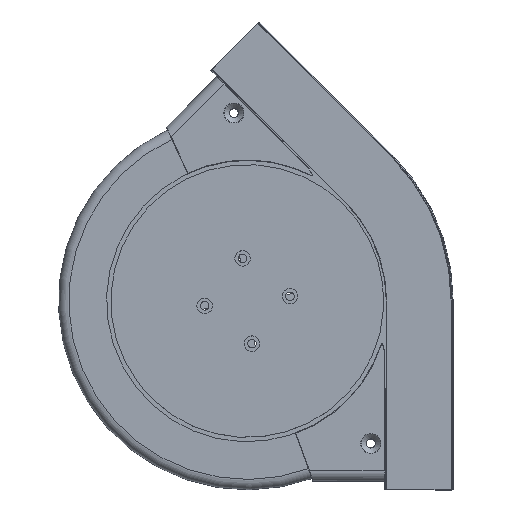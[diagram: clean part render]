
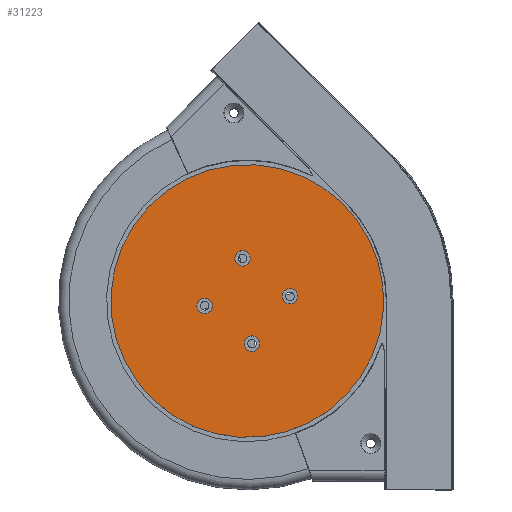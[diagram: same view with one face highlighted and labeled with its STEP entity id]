
A CAD part, top view. The second image highlights one B-rep face of the part: STEP entity #31223.
In plain terms, the highlighted planar face has unit normal (0, 0, 1).
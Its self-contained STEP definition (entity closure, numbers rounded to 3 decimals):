
#30907=CARTESIAN_POINT('',(-112.761,85.651,74.));
#30908=VERTEX_POINT('',#30907);
#30909=CARTESIAN_POINT('',(-117.234,85.154,74.));
#30910=DIRECTION('',(0.,0.,-1.));
#30911=DIRECTION('',(0.994,0.111,0.));
#30912=AXIS2_PLACEMENT_3D('',#30909,#30910,#30911);
#30913=CIRCLE('',#30912,4.5);
#30914=EDGE_CURVE('',#30908,#30908,#30913,.T.);
#30967=CARTESIAN_POINT('',(-144.349,102.761,74.));
#30968=VERTEX_POINT('',#30967);
#30969=CARTESIAN_POINT('',(-144.846,107.234,74.));
#30970=DIRECTION('',(0.,0.,-1.));
#30971=DIRECTION('',(0.111,-0.994,0.));
#30972=AXIS2_PLACEMENT_3D('',#30969,#30970,#30971);
#30973=CIRCLE('',#30972,4.5);
#30974=EDGE_CURVE('',#30968,#30968,#30973,.T.);
#31027=CARTESIAN_POINT('',(-127.239,134.349,74.));
#31028=VERTEX_POINT('',#31027);
#31029=CARTESIAN_POINT('',(-122.766,134.846,74.));
#31030=DIRECTION('',(0.,0.,-1.));
#31031=DIRECTION('',(-0.994,-0.111,0.));
#31032=AXIS2_PLACEMENT_3D('',#31029,#31030,#31031);
#31033=CIRCLE('',#31032,4.5);
#31034=EDGE_CURVE('',#31028,#31028,#31033,.T.);
#31087=CARTESIAN_POINT('',(-95.651,117.239,74.));
#31088=VERTEX_POINT('',#31087);
#31089=CARTESIAN_POINT('',(-95.154,112.766,74.));
#31090=DIRECTION('',(0.,0.,-1.));
#31091=DIRECTION('',(-0.111,0.994,0.));
#31092=AXIS2_PLACEMENT_3D('',#31089,#31090,#31091);
#31093=CIRCLE('',#31092,4.5);
#31094=EDGE_CURVE('',#31088,#31088,#31093,.T.);
#31188=CARTESIAN_POINT('',(-128.797,189.012,74.));
#31189=VERTEX_POINT('',#31188);
#31190=CARTESIAN_POINT('',(-120.,110.,74.));
#31191=DIRECTION('',(0.,0.,-1.0));
#31192=DIRECTION('',(0.111,-0.994,0.));
#31193=AXIS2_PLACEMENT_3D('',#31190,#31191,#31192);
#31194=CIRCLE('',#31193,79.5);
#31195=EDGE_CURVE('',#31189,#31189,#31194,.T.);
#31203=CARTESIAN_POINT('',(-120.,110.,74.));
#31204=DIRECTION('',(0.,0.,-1.0));
#31205=DIRECTION('',(0.111,-0.994,0.));
#31206=AXIS2_PLACEMENT_3D('',#31203,#31204,#31205);
#31207=PLANE('',#31206);
#31208=ORIENTED_EDGE('',*,*,#31195,.F.);
#31209=EDGE_LOOP('',(#31208));
#31210=FACE_OUTER_BOUND('',#31209,.T.);
#31211=ORIENTED_EDGE('',*,*,#30914,.T.);
#31212=EDGE_LOOP('',(#31211));
#31213=FACE_BOUND('',#31212,.T.);
#31214=ORIENTED_EDGE('',*,*,#30974,.T.);
#31215=EDGE_LOOP('',(#31214));
#31216=FACE_BOUND('',#31215,.T.);
#31217=ORIENTED_EDGE('',*,*,#31034,.T.);
#31218=EDGE_LOOP('',(#31217));
#31219=FACE_BOUND('',#31218,.T.);
#31220=ORIENTED_EDGE('',*,*,#31094,.T.);
#31221=EDGE_LOOP('',(#31220));
#31222=FACE_BOUND('',#31221,.T.);
#31223=ADVANCED_FACE('',(#31210,#31213,#31216,#31219,#31222),#31207,.F.);
